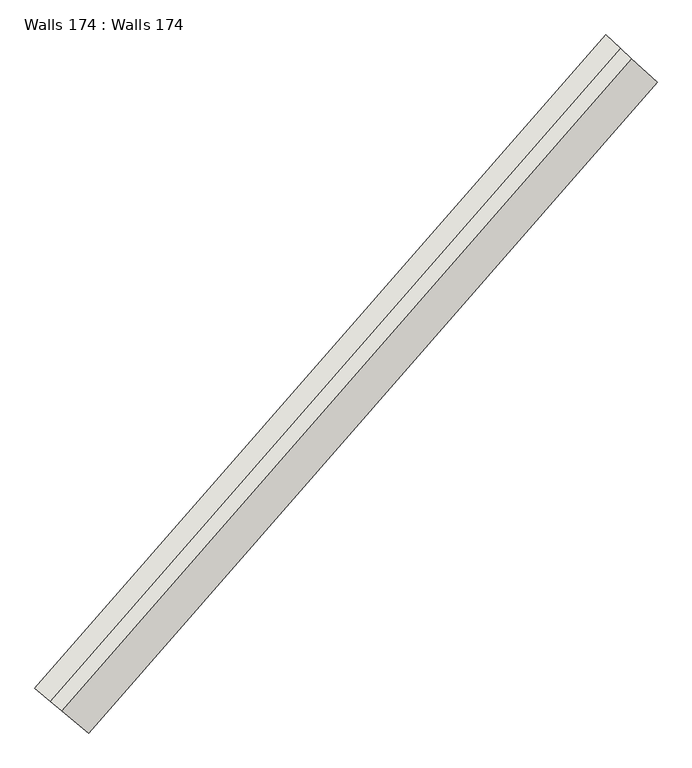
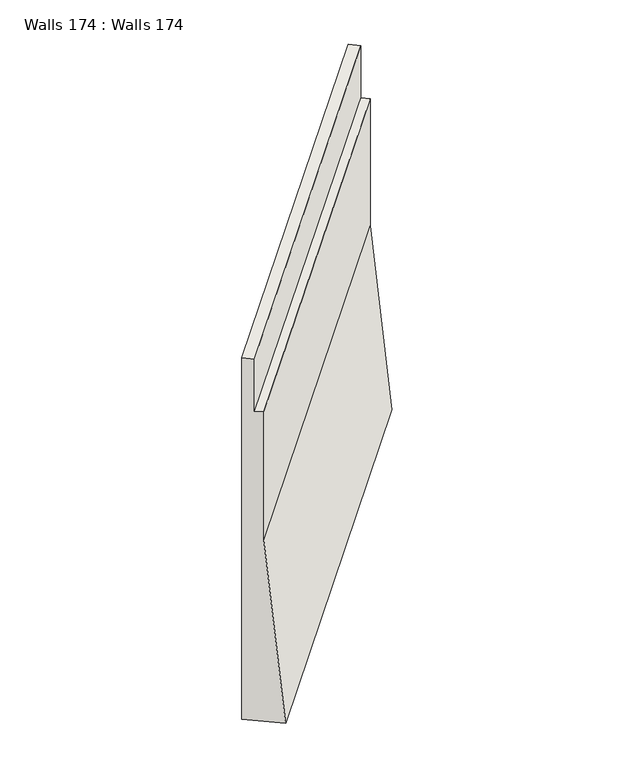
"""IFC4 building model written with IfcOpenShell, lengths in millimetres: wall geometry, Walls 174 : Walls 174."""

from ifc_helpers import new_model, si_unit, frame, origin, place, context, project, spatial, source, transform, mapped, element, save
from ifc_brep_helpers import plane_surface, spline_curve, spline_surface, advanced_brep


def walls_174_walls_174_c0b562b9(model_context):
    return source(origin(), model_context, "Body", "AdvancedBrep", [
        advanced_brep(
        [(227513.5235965, 131858.2821968, 643020.0), (227244.5306202, 132082.2080299, 646520.0), (227244.5306202, 132082.2080299, 648990.0), (227129.2479161, 132178.1762441, 648990.0), (227129.2479161, 132178.1762441, 649990.0), (226975.537644, 132306.1338629, 649990.0), (226975.537644, 132306.1338629, 643020.0), (233216.8035347, 138382.1171995, 643120.0), (232701.0835941, 138855.4383832, 643120.0), (232701.0835941, 138855.4383832, 650070.0), (232848.4321486, 138720.2037593, 650070.0), (232848.4321486, 138720.2037593, 649070.0), (232958.9435644, 138618.7777914, 649070.0), (232958.9435644, 138618.7777914, 646620.0)],
        [
            (0, 1),
            (1, 2),
            (2, 3),
            (3, 4),
            (4, 5),
            (5, 6),
            (6, 0),
            (7, 8),
            (8, 9),
            (9, 10),
            (10, 11),
            (11, 12),
            (12, 13),
            (13, 7),
            (11, 3, spline_curve(3, [(232848.4321486, 138720.2037593, 649070.0), (230889.708881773, 136586.02366879, 649043.3333338), (228982.571850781, 134404.498747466, 649016.6666662), (227129.2479161, 132178.1762441, 648990.0)], [4, 4], [0.0, 28.50056345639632])),
            (2, 12, spline_curve(3, [(227244.5306202, 132082.2080299, 648990.0), (229096.308400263, 134306.673200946, 649016.6666662), (231001.854383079, 136486.37816244, 649043.3333338), (232958.9435644, 138618.7777914, 649070.0)], [4, 4], [0.0, 28.50056345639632])),
            (9, 5, spline_curve(3, [(232701.0835941, 138855.4383832, 650070.0), (230740.181547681, 136718.88434414, 650043.333333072), (228830.923117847, 134534.932808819, 650016.666666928), (226975.537644, 132306.1338629, 649990.0)], [4, 4], [0.0, 28.52831238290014])),
            (4, 10, spline_curve(3, [(227129.2479161, 132178.1762441, 649990.0), (228982.571850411, 134404.49874707, 650016.666666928), (230889.708881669, 136586.02366857, 650043.333333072), (232848.4321486, 138720.2037593, 650070.0)], [4, 4], [0.0, 28.52831238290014])),
            (8, 6, spline_curve(3, [(232701.0835941, 138855.4383832, 643120.0), (230740.181547, 136718.88434359, 643086.666666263), (228830.92311811, 134534.93280933, 643053.333333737), (226975.537644, 132306.1338629, 643020.0)], [4, 4], [0.0, 28.544489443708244])),
            (7, 0, spline_curve(3, [(233216.8035347, 138382.1171995, 643120.0), (231263.527218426, 136253.871981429, 643086.666666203), (229361.693682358, 134078.413592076, 643053.333333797), (227513.5235965, 131858.2821968, 643020.0)], [4, 4], [0.0, 28.489351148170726])),
            (13, 1, spline_curve(3, [(232958.9435644, 138618.7777914, 646620.0), (231001.854383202, 136486.378162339, 646586.666666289), (229096.308400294, 134306.67320085, 646553.333333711), (227244.5306202, 132082.2080299, 646520.0)], [4, 4], [0.0, 28.461602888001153])),
        ],
        [
            plane_surface(frame((227173.1651367, 132141.6169244, 647217.1428571), z_axis=(-0.63978809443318, -0.7685513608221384, 0.0), x_axis=(-0.07647371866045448, 0.06366129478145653, 0.9950371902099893))),
            plane_surface(frame((232890.5317356, 138681.5652953, 647305.7142857), z_axis=(0.6761731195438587, 0.7367427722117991, 0.0), x_axis=(-0.07330864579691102, 0.06728174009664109, 0.9950371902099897))),
            spline_surface(3, 3, [[(232958.9435644, 138618.7777914, 649070.0), (231001.854382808, 136486.378162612, 649043.333333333), (229096.308400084, 134306.673200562, 649016.666666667), (227244.5306202, 132082.2080299, 648990.0)], [(232922.106425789, 138652.586447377, 649070.0), (230964.472549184, 136519.593331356, 649043.333333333), (229058.396216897, 134339.281716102, 649016.666666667), (227206.103052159, 132114.197434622, 648990.0)], [(232885.269287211, 138686.395103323, 649070.0), (230927.090715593, 136552.808500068, 649043.333333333), (229020.484033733, 134371.890231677, 649016.666666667), (227167.675484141, 132146.186839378, 648990.0)], [(232848.4321486, 138720.2037593, 649070.0), (230889.708881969, 136586.023668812, 649043.333333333), (228982.571850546, 134404.498747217, 649016.666666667), (227129.2479161, 132178.1762441, 648990.0)]], [4, 4], [4, 4], [0.0, 0.4921259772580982], [0.0, 28.50056345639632]),
            spline_surface(3, 3, [[(232848.4321486, 138720.2037593, 650070.0), (230889.708881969, 136586.023668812, 650043.333333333), (228982.571850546, 134404.498747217, 650016.666666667), (227129.2479161, 132178.1762441, 649990.0)], [(232799.315963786, 138765.28196727, 650070.0), (230839.866437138, 136630.310560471, 650043.333333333), (228932.022272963, 134447.976767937, 650016.666666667), (227078.011158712, 132220.828783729, 649990.0)], [(232750.199778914, 138810.36017523, 650070.0), (230790.023992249, 136674.597452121, 650043.333333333), (228881.472695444, 134491.45478857, 650016.666666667), (227026.774401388, 132263.481323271, 649990.0)], [(232701.0835941, 138855.4383832, 650070.0), (230740.181547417, 136718.88434378, 650043.333333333), (228830.923117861, 134534.93280929, 650016.666666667), (226975.537644, 132306.1338629, 649990.0)]], [4, 4], [4, 4], [0.0, 0.6561679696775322], [0.0, 28.52831238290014]),
            spline_surface(3, 3, [[(232701.0835941, 138855.4383832, 650070.0), (230740.181547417, 136718.88434378, 650043.333333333), (228830.923117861, 134534.93280929, 650016.666666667), (226975.537644, 132306.1338629, 649990.0)], [(232701.0835941, 138855.4383832, 647753.333333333), (230740.181547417, 136718.88434378, 647724.444444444), (228830.923117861, 134534.93280929, 647695.555555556), (226975.537644, 132306.1338629, 647666.666666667)], [(232701.0835941, 138855.4383832, 645436.666666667), (230740.181547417, 136718.88434378, 645405.555555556), (228830.923117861, 134534.93280929, 645374.444444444), (226975.537644, 132306.1338629, 645343.333333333)], [(232701.0835941, 138855.4383832, 643120.0), (230740.181547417, 136718.88434378, 643086.666666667), (228830.923117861, 134534.93280929, 643053.333333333), (226975.537644, 132306.1338629, 643020.0)]], [4, 4], [4, 4], [0.0, 22.834645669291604], [0.0, 28.544489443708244]),
            spline_surface(3, 3, [[(232701.0835941, 138855.4383832, 643120.0), (230740.181547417, 136718.88434378, 643086.666666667), (228830.923117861, 134534.932809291, 643053.333333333), (226975.537644, 132306.1338629, 643020.0)], [(232872.990240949, 138697.664655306, 643120.0), (230914.630104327, 136563.880222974, 643086.666666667), (229007.846639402, 134382.75973677, 643053.333333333), (227154.866294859, 132156.849974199, 643020.0)], [(233044.896887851, 138539.890927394, 643120.0), (231089.078661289, 136408.876102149, 643086.666666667), (229184.770160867, 134230.586664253, 643053.333333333), (227334.194945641, 132007.566085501, 643020.0)], [(233216.8035347, 138382.1171995, 643120.0), (231263.527218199, 136253.871981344, 643086.666666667), (229361.693682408, 134078.413591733, 643053.333333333), (227513.5235965, 131858.2821968, 643020.0)]], [4, 4], [4, 4], [0.0, 2.296587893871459], [0.0, 28.489351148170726]),
            spline_surface(3, 3, [[(233216.8035347, 138382.1171995, 643120.0), (231263.527218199, 136253.871981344, 643086.666666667), (229361.693682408, 134078.413591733, 643053.333333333), (227513.5235965, 131858.2821968, 643020.0)], [(233130.850211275, 138461.004063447, 644286.666666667), (231176.302939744, 136331.374041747, 644253.333333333), (229273.231921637, 134154.500127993, 644220.0), (227423.859271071, 131932.924141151, 644186.666666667)], [(233044.896887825, 138539.890927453, 645453.333333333), (231089.078661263, 136408.876102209, 645420.0), (229184.770160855, 134230.586664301, 645386.666666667), (227334.194945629, 132007.566085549, 645353.333333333)], [(232958.9435644, 138618.7777914, 646620.0), (231001.854382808, 136486.378162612, 646586.666666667), (229096.308400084, 134306.673200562, 646553.333333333), (227244.5306202, 132082.2080299, 646520.0)]], [4, 4], [4, 4], [0.0, 11.54021150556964], [0.0, 28.461602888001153]),
            spline_surface(3, 3, [[(232958.9435644, 138618.7777914, 646620.0), (231001.854382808, 136486.378162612, 646586.666666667), (229096.308400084, 134306.673200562, 646553.333333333), (227244.5306202, 132082.2080299, 646520.0)], [(232958.9435644, 138618.7777914, 647436.666666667), (231001.854382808, 136486.378162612, 647405.555555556), (229096.308400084, 134306.673200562, 647374.444444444), (227244.5306202, 132082.2080299, 647343.333333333)], [(232958.9435644, 138618.7777914, 648253.333333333), (231001.854382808, 136486.378162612, 648224.444444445), (229096.308400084, 134306.673200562, 648195.555555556), (227244.5306202, 132082.2080299, 648166.666666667)], [(232958.9435644, 138618.7777914, 649070.0), (231001.854382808, 136486.378162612, 649043.333333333), (229096.308400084, 134306.673200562, 649016.666666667), (227244.5306202, 132082.2080299, 648990.0)]], [4, 4], [4, 4], [0.0, 8.07086614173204], [0.0, 28.488992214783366]),
            spline_surface(3, 3, [[(232848.4321486, 138720.2037593, 649070.0), (230889.708881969, 136586.023668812, 649043.333333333), (228982.571850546, 134404.498747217, 649016.666666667), (227129.2479161, 132178.1762441, 648990.0)], [(232848.4321486, 138720.2037593, 649403.333333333), (230889.708881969, 136586.023668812, 649376.666666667), (228982.571850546, 134404.498747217, 649350.0), (227129.2479161, 132178.1762441, 649323.333333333)], [(232848.4321486, 138720.2037593, 649736.666666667), (230889.708881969, 136586.023668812, 649710.0), (228982.571850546, 134404.498747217, 649683.333333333), (227129.2479161, 132178.1762441, 649656.666666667)], [(232848.4321486, 138720.2037593, 650070.0), (230889.708881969, 136586.023668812, 650043.333333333), (228982.571850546, 134404.498747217, 650016.666666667), (227129.2479161, 132178.1762441, 649990.0)]], [4, 4], [4, 4], [0.0, 3.280839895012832], [0.0, 28.512455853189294]),
        ],
        [
            (0, [[1, 2, 3, 4, 5, 6, 7]]),
            (1, [[8, 9, 10, 11, 12, 13, 14]]),
            (2, [[-12, 15, -3, 16]]),
            (3, [[-10, 17, -5, 18]]),
            (4, [[-9, 19, -6, -17]]),
            (5, [[-8, 20, -7, -19]]),
            (6, [[-14, 21, -1, -20]]),
            (7, [[-13, -16, -2, -21]]),
            (8, [[-11, -18, -4, -15]]),
        ],
    ),
    ])


if __name__ == "__main__":
    model = new_model("IFC4")
    model_context = context("Model", 3, world=origin())
    ifc_project = project(units=[si_unit("LENGTHUNIT", "METRE", prefix="MILLI")], contexts=[model_context])
    site = spatial("IfcSite", under=ifc_project)
    building = spatial("IfcBuilding", under=site)
    placement = place(None, origin())
    walls_174_walls_174_shape = walls_174_walls_174_c0b562b9(model_context)
    element("IfcWall", 1, ObjectType="Walls 174 : Walls 174", at=placement, inside=building, context=model_context, shape_type="MappedRepresentation", body=[
        mapped(walls_174_walls_174_shape, transform((0.0, 0.0, 0.0), x_axis=(1.0, 0.0, 0.0), y_axis=(0.0, 1.0, 0.0), z_axis=(0.0, 0.0, 1.0))),
    ])
    save(model, "model.ifc")
